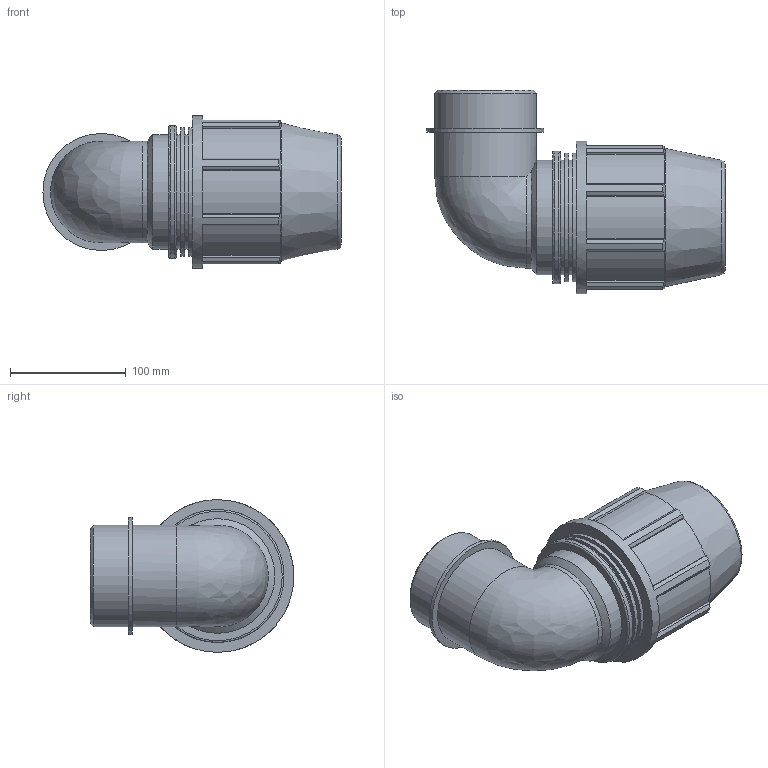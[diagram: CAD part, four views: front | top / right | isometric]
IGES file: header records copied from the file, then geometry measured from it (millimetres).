
Global section: file name: 878500075030_188500075030.ipt; native system: Autodesk Inventor 2015; preprocessor: unknown; author: KIM; date: 20170608.042804; units: millimetre
Bounding box: 257.53 x 176 x 132 mm (x, y, z)
Volume: 1477279.4 mm3; surface area: 194838.2 mm2
Topology: 1 solids, 1 shells, 85 faces, 225 edges, 150 vertices
Faces by surface type: plane 52, cylinder 19, revolution 9, cone 4, bspline 1
Full cylindrical faces by diameter (mm): 87.884 x2, 99 x3, 101.067 x1, 111.395 x2, 114.84 x1, 132 x1
